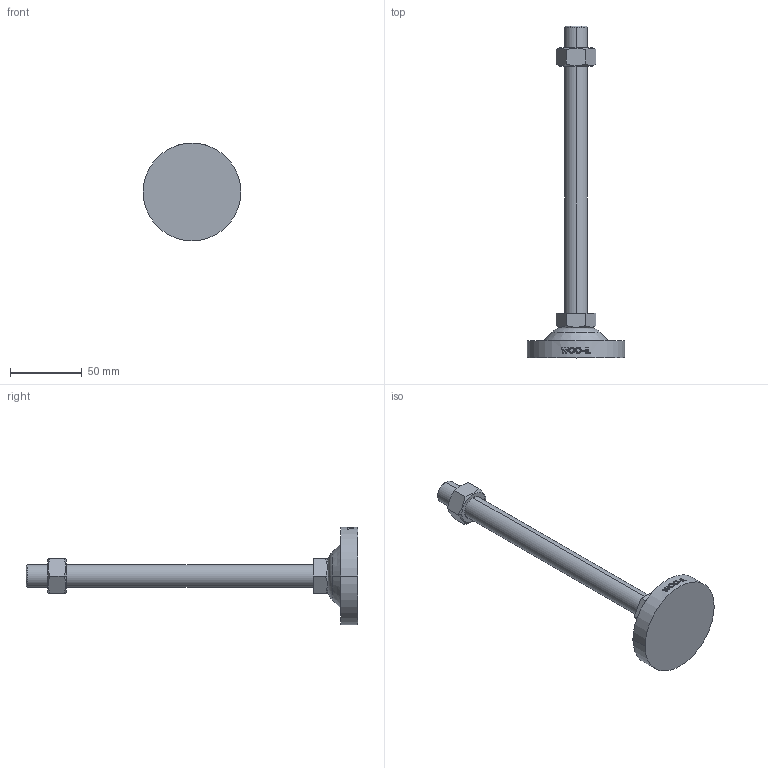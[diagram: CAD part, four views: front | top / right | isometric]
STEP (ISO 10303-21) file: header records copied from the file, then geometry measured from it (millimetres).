
FILE_DESCRIPTION (( 'STEP AP214' ), '1' );
FILE_NAME ('RB68-M16-200.step', '2021-01-18T05:50:57', ( '' ), ( '' ), 'SwSTEP 2.0', 'SolidWorks 2019', '' );
FILE_SCHEMA (( 'AUTOMOTIVE_DESIGN' ));
Length unit declared in the file: millimetre
Products named in the file (2): RB68-M16-200
Bounding box: 68 x 231 x 68 mm (x, y, z)
Volume: 97161.1 mm3; surface area: 26074.6 mm2
Topology: 2 solids, 3 shells, 128 faces, 317 edges, 206 vertices
Faces by surface type: plane 48, cylinder 42, bspline 18, cone 16, torus 4
Entity records: 5349 total; most frequent: CARTESIAN_POINT 2507, ORIENTED_EDGE 634, DIRECTION 479, EDGE_CURVE 317, VERTEX_POINT 206, AXIS2_PLACEMENT_3D 176, EDGE_LOOP 141, FACE_OUTER_BOUND 128
